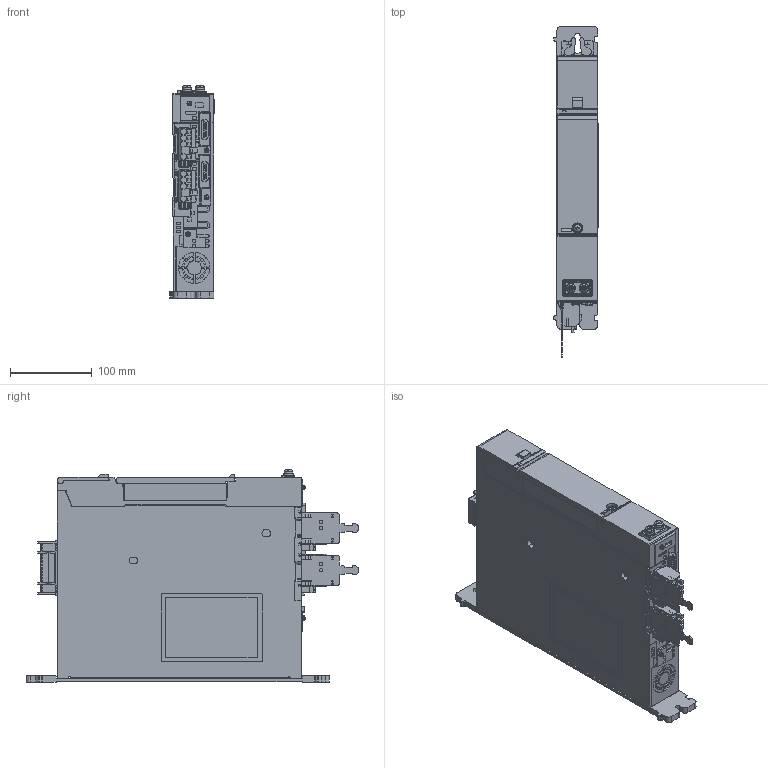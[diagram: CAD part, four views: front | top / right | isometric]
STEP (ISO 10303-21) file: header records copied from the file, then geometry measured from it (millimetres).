
FILE_DESCRIPTION( ( 'STEP AP214' ), '1' );
FILE_NAME( 'p:/temp/worker_14/temp/exporttempdir_2776_385_ybsKM/format_0/MADM2A6KBX.stp', '2020-08-27T07:42:29', ( 'License CC BY-ND 4.0' ), ( 'CADENAS' ), ' ', 'PARTsolutions', ' ' );
FILE_SCHEMA( ( 'AUTOMOTIVE_DESIGN { 1 0 10303 214 1 1 1 1 }' ) );
Length unit declared in the file: millimetre
Products named in the file (1): _MADM2A6KBX
Bounding box: 54.44 x 405 x 259 mm (x, y, z)
Volume: 3779640.8 mm3; surface area: 309778.7 mm2
Topology: 1 solids, 19 shells, 4160 faces, 11744 edges, 7808 vertices
Faces by surface type: plane 2911, cylinder 1164, cone 54, torus 26, bspline 4, sphere 1
Full cylindrical faces by diameter (mm): 1.25 x30, 2.2 x4, 3.2 x2, 4 x4, 5.5 x4, 6 x4, 9.085 x1, 10 x14, 11.5 x2
Entity records: 166811 total; most frequent: CARTESIAN_POINT 24216, ORIENTED_EDGE 23128, DIRECTION 22253, EDGE_CURVE 11564, LINE 8979, VECTOR 8979, VERTEX_POINT 7762, AXIS2_PLACEMENT_3D 6637
